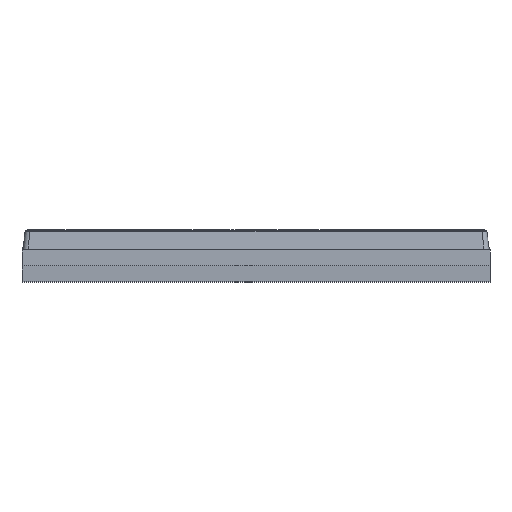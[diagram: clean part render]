
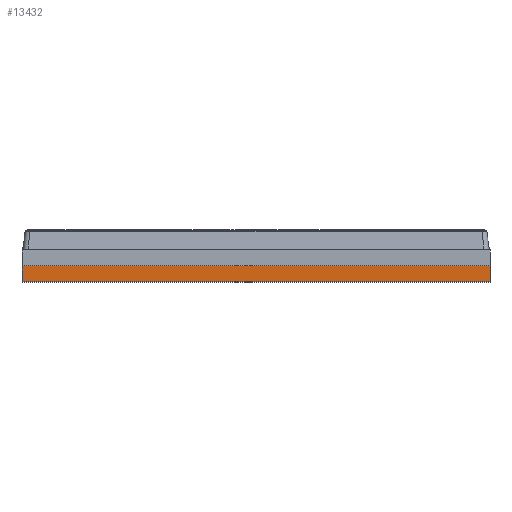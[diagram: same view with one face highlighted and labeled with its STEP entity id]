
A CAD part, left-side view. The second image highlights one B-rep face of the part: STEP entity #13432.
In plain terms, the highlighted planar face has unit normal (-0.999, 0, -0.052).
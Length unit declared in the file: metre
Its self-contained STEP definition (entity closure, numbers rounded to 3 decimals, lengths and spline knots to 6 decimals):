
#13432=ADVANCED_FACE('',(#39442),#39443,.T.);
#39442=FACE_OUTER_BOUND('',#76272,.T.);
#39443=PLANE('',#76273);
#76272=EDGE_LOOP('',(#143465,#143466,#143467,#143468));
#76273=AXIS2_PLACEMENT_3D('',#143469,#143470,#143471);
#143465=ORIENTED_EDGE('',*,*,#185905,.T.);
#143466=ORIENTED_EDGE('',*,*,#185759,.T.);
#143467=ORIENTED_EDGE('',*,*,#185585,.T.);
#143468=ORIENTED_EDGE('',*,*,#185909,.T.);
#143469=CARTESIAN_POINT('',(-0.030714,0.143751,-0.021651));
#143470=DIRECTION('',(-0.999,0.0,-0.052));
#143471=DIRECTION('',(-0.052,0.0,0.999));
#185585=EDGE_CURVE('',#191354,#191352,#191355,.T.);
#185759=EDGE_CURVE('',#191653,#191354,#191656,.T.);
#185905=EDGE_CURVE('',#191847,#191653,#191848,.T.);
#185909=EDGE_CURVE('',#191352,#191847,#191853,.T.);
#191352=VERTEX_POINT('',#198628);
#191354=VERTEX_POINT('',#198631);
#191355=LINE('',#198632,#198633);
#191653=VERTEX_POINT('',#199052);
#191656=LINE('',#199056,#199057);
#191847=VERTEX_POINT('',#199339);
#191848=LINE('',#199340,#199341);
#191853=LINE('',#199348,#199349);
#198628=CARTESIAN_POINT('',(-0.03125,-0.14375,-0.011421));
#198631=CARTESIAN_POINT('',(-0.030739,-0.14375,-0.021177));
#198632=CARTESIAN_POINT('',(-0.031589,-0.14375,-0.004944));
#198633=VECTOR('',#208989,1.0);
#199052=CARTESIAN_POINT('',(-0.030739,0.14375,-0.021177));
#199056=CARTESIAN_POINT('',(-0.030739,-0.14375,-0.021177));
#199057=VECTOR('',#209261,1.0);
#199339=CARTESIAN_POINT('',(-0.03125,0.14375,-0.011421));
#199340=CARTESIAN_POINT('',(-0.031761,0.14375,-0.001678));
#199341=VECTOR('',#209416,1.0);
#199348=CARTESIAN_POINT('',(-0.03125,0.13775,-0.011421));
#199349=VECTOR('',#209419,1.0);
#208989=DIRECTION('',(-0.052,0.,0.999));
#209261=DIRECTION('',(0.0,-1.0,0.0));
#209416=DIRECTION('',(0.052,0.,-0.999));
#209419=DIRECTION('',(0.0,1.0,0.0));
